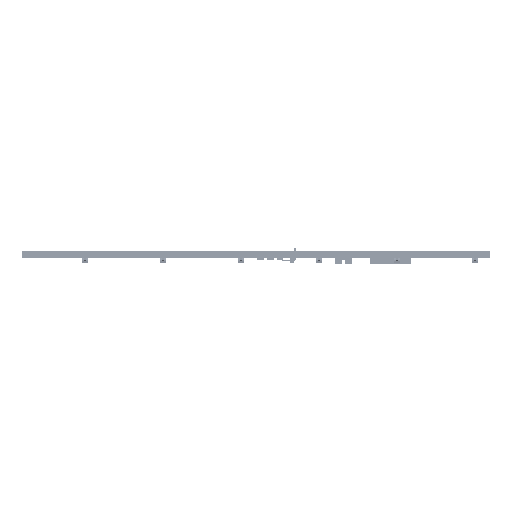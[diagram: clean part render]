
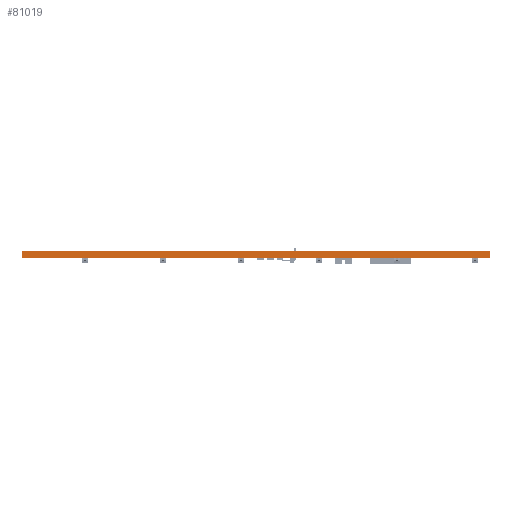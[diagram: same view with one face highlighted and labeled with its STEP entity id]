
A CAD part, left-side view. The second image highlights one B-rep face of the part: STEP entity #81019.
In plain terms, the highlighted planar face has unit normal (-1, 0, 0).
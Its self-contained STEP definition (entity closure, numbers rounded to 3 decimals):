
#80838 = PLANE('',#80839);
#80839 = AXIS2_PLACEMENT_3D('',#80840,#80841,#80842);
#80840 = CARTESIAN_POINT('',(404.813,-114.3,0.));
#80841 = DIRECTION('',(0.,-1.,0.));
#80842 = DIRECTION('',(-1.,0.,0.));
#80863 = VERTEX_POINT('',#80864);
#80864 = CARTESIAN_POINT('',(0.,-114.3,1.6));
#80878 = PLANE('',#80879);
#80879 = AXIS2_PLACEMENT_3D('',#80880,#80881,#80882);
#80880 = CARTESIAN_POINT('',(202.407,-57.15,1.6));
#80881 = DIRECTION('',(-0.,-0.,-1.));
#80882 = DIRECTION('',(-1.,0.,0.));
#80890 = EDGE_CURVE('',#80891,#80863,#80893,.T.);
#80891 = VERTEX_POINT('',#80892);
#80892 = CARTESIAN_POINT('',(0.,-114.3,0.));
#80893 = SURFACE_CURVE('',#80894,(#80898,#80905),.PCURVE_S1.);
#80894 = LINE('',#80895,#80896);
#80895 = CARTESIAN_POINT('',(0.,-114.3,0.));
#80896 = VECTOR('',#80897,1.);
#80897 = DIRECTION('',(0.,0.,1.));
#80898 = PCURVE('',#80838,#80899);
#80899 = DEFINITIONAL_REPRESENTATION('',(#80900),#80904);
#80900 = LINE('',#80901,#80902);
#80901 = CARTESIAN_POINT('',(404.813,0.));
#80902 = VECTOR('',#80903,1.);
#80903 = DIRECTION('',(0.,-1.));
#80904 = ( GEOMETRIC_REPRESENTATION_CONTEXT(2) 
PARAMETRIC_REPRESENTATION_CONTEXT() REPRESENTATION_CONTEXT('2D SPACE',''
  ) );
#80905 = PCURVE('',#80906,#80911);
#80906 = PLANE('',#80907);
#80907 = AXIS2_PLACEMENT_3D('',#80908,#80909,#80910);
#80908 = CARTESIAN_POINT('',(0.,-114.3,0.));
#80909 = DIRECTION('',(-1.,0.,0.));
#80910 = DIRECTION('',(0.,1.,0.));
#80911 = DEFINITIONAL_REPRESENTATION('',(#80912),#80916);
#80912 = LINE('',#80913,#80914);
#80913 = CARTESIAN_POINT('',(0.,0.));
#80914 = VECTOR('',#80915,1.);
#80915 = DIRECTION('',(0.,-1.));
#80916 = ( GEOMETRIC_REPRESENTATION_CONTEXT(2) 
PARAMETRIC_REPRESENTATION_CONTEXT() REPRESENTATION_CONTEXT('2D SPACE',''
  ) );
#80932 = PLANE('',#80933);
#80933 = AXIS2_PLACEMENT_3D('',#80934,#80935,#80936);
#80934 = CARTESIAN_POINT('',(202.407,-57.15,0.));
#80935 = DIRECTION('',(-0.,-0.,-1.));
#80936 = DIRECTION('',(-1.,0.,0.));
#80965 = PLANE('',#80966);
#80966 = AXIS2_PLACEMENT_3D('',#80967,#80968,#80969);
#80967 = CARTESIAN_POINT('',(0.,0.,0.));
#80968 = DIRECTION('',(0.,1.,0.));
#80969 = DIRECTION('',(1.,0.,0.));
#81019 = ADVANCED_FACE('',(#81020),#80906,.T.);
#81020 = FACE_BOUND('',#81021,.T.);
#81021 = EDGE_LOOP('',(#81022,#81023,#81046,#81069));
#81022 = ORIENTED_EDGE('',*,*,#80890,.T.);
#81023 = ORIENTED_EDGE('',*,*,#81024,.T.);
#81024 = EDGE_CURVE('',#80863,#81025,#81027,.T.);
#81025 = VERTEX_POINT('',#81026);
#81026 = CARTESIAN_POINT('',(0.,0.,1.6));
#81027 = SURFACE_CURVE('',#81028,(#81032,#81039),.PCURVE_S1.);
#81028 = LINE('',#81029,#81030);
#81029 = CARTESIAN_POINT('',(0.,-114.3,1.6));
#81030 = VECTOR('',#81031,1.);
#81031 = DIRECTION('',(0.,1.,0.));
#81032 = PCURVE('',#80906,#81033);
#81033 = DEFINITIONAL_REPRESENTATION('',(#81034),#81038);
#81034 = LINE('',#81035,#81036);
#81035 = CARTESIAN_POINT('',(0.,-1.6));
#81036 = VECTOR('',#81037,1.);
#81037 = DIRECTION('',(1.,0.));
#81038 = ( GEOMETRIC_REPRESENTATION_CONTEXT(2) 
PARAMETRIC_REPRESENTATION_CONTEXT() REPRESENTATION_CONTEXT('2D SPACE',''
  ) );
#81039 = PCURVE('',#80878,#81040);
#81040 = DEFINITIONAL_REPRESENTATION('',(#81041),#81045);
#81041 = LINE('',#81042,#81043);
#81042 = CARTESIAN_POINT('',(202.407,-57.15));
#81043 = VECTOR('',#81044,1.);
#81044 = DIRECTION('',(0.,1.));
#81045 = ( GEOMETRIC_REPRESENTATION_CONTEXT(2) 
PARAMETRIC_REPRESENTATION_CONTEXT() REPRESENTATION_CONTEXT('2D SPACE',''
  ) );
#81046 = ORIENTED_EDGE('',*,*,#81047,.F.);
#81047 = EDGE_CURVE('',#81048,#81025,#81050,.T.);
#81048 = VERTEX_POINT('',#81049);
#81049 = CARTESIAN_POINT('',(0.,-0.,0.));
#81050 = SURFACE_CURVE('',#81051,(#81055,#81062),.PCURVE_S1.);
#81051 = LINE('',#81052,#81053);
#81052 = CARTESIAN_POINT('',(0.,-0.,0.));
#81053 = VECTOR('',#81054,1.);
#81054 = DIRECTION('',(0.,0.,1.));
#81055 = PCURVE('',#80906,#81056);
#81056 = DEFINITIONAL_REPRESENTATION('',(#81057),#81061);
#81057 = LINE('',#81058,#81059);
#81058 = CARTESIAN_POINT('',(114.3,0.));
#81059 = VECTOR('',#81060,1.);
#81060 = DIRECTION('',(0.,-1.));
#81061 = ( GEOMETRIC_REPRESENTATION_CONTEXT(2) 
PARAMETRIC_REPRESENTATION_CONTEXT() REPRESENTATION_CONTEXT('2D SPACE',''
  ) );
#81062 = PCURVE('',#80965,#81063);
#81063 = DEFINITIONAL_REPRESENTATION('',(#81064),#81068);
#81064 = LINE('',#81065,#81066);
#81065 = CARTESIAN_POINT('',(0.,0.));
#81066 = VECTOR('',#81067,1.);
#81067 = DIRECTION('',(0.,-1.));
#81068 = ( GEOMETRIC_REPRESENTATION_CONTEXT(2) 
PARAMETRIC_REPRESENTATION_CONTEXT() REPRESENTATION_CONTEXT('2D SPACE',''
  ) );
#81069 = ORIENTED_EDGE('',*,*,#81070,.F.);
#81070 = EDGE_CURVE('',#80891,#81048,#81071,.T.);
#81071 = SURFACE_CURVE('',#81072,(#81076,#81083),.PCURVE_S1.);
#81072 = LINE('',#81073,#81074);
#81073 = CARTESIAN_POINT('',(0.,-114.3,0.));
#81074 = VECTOR('',#81075,1.);
#81075 = DIRECTION('',(0.,1.,0.));
#81076 = PCURVE('',#80906,#81077);
#81077 = DEFINITIONAL_REPRESENTATION('',(#81078),#81082);
#81078 = LINE('',#81079,#81080);
#81079 = CARTESIAN_POINT('',(0.,0.));
#81080 = VECTOR('',#81081,1.);
#81081 = DIRECTION('',(1.,0.));
#81082 = ( GEOMETRIC_REPRESENTATION_CONTEXT(2) 
PARAMETRIC_REPRESENTATION_CONTEXT() REPRESENTATION_CONTEXT('2D SPACE',''
  ) );
#81083 = PCURVE('',#80932,#81084);
#81084 = DEFINITIONAL_REPRESENTATION('',(#81085),#81089);
#81085 = LINE('',#81086,#81087);
#81086 = CARTESIAN_POINT('',(202.407,-57.15));
#81087 = VECTOR('',#81088,1.);
#81088 = DIRECTION('',(0.,1.));
#81089 = ( GEOMETRIC_REPRESENTATION_CONTEXT(2) 
PARAMETRIC_REPRESENTATION_CONTEXT() REPRESENTATION_CONTEXT('2D SPACE',''
  ) );
